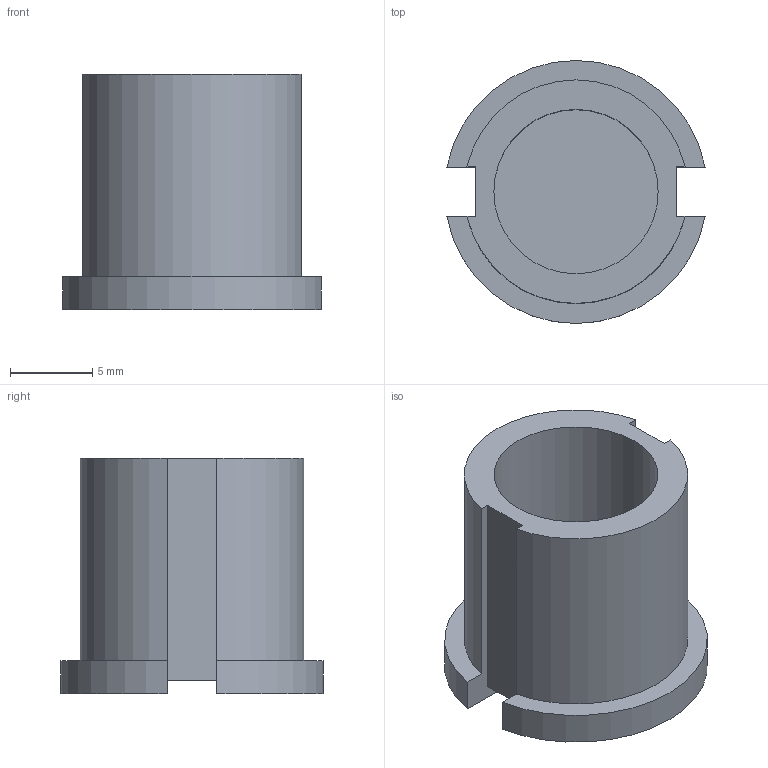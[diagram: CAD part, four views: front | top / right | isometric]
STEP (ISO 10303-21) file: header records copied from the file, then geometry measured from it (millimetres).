
FILE_DESCRIPTION(('Open CASCADE Model'),'2;1');
FILE_NAME('Open CASCADE Shape Model','2026-11-11T17:26:39',('Author'),( 'Open CASCADE'),'Open CASCADE STEP processor 7.9','Open CASCADE 7.9' ,'Unknown');
FILE_SCHEMA(('AUTOMOTIVE_DESIGN { 1 0 10303 214 1 1 1 1 }'));
Length unit declared in the file: millimetre
Products named in the file (1): Open CASCADE STEP translator 7.9 7
Bounding box: 15.72 x 16 x 14.3 mm (x, y, z)
Volume: 1123.8 mm3; surface area: 1446.7 mm2
Topology: 1 solids, 1 shells, 16 faces, 39 edges, 26 vertices
Faces by surface type: plane 11, cylinder 5
Full cylindrical faces by diameter (mm): 10 x1
Entity records: 994 total; most frequent: CARTESIAN_POINT 210, DIRECTION 141, LINE 83, VECTOR 83, ORIENTED_EDGE 78, PCURVE 78, DEFINITIONAL_REPRESENTATION 78, EDGE_CURVE 39
